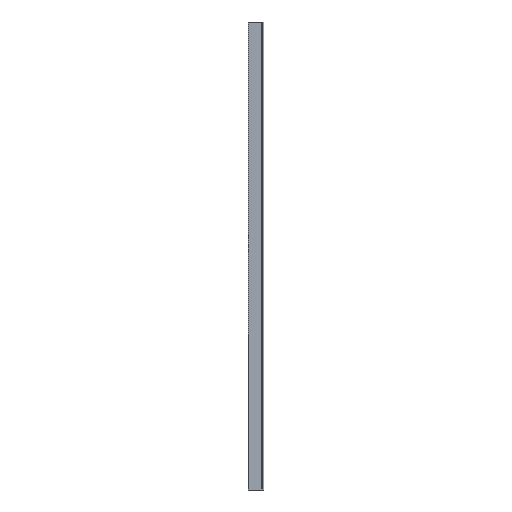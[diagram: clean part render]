
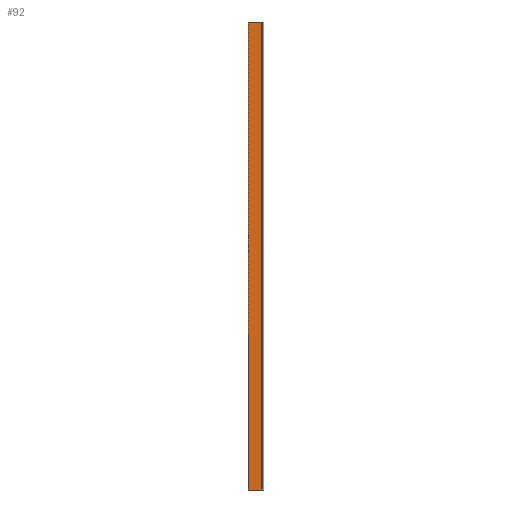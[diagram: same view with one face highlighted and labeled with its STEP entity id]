
A CAD part, left-side view. The second image highlights one B-rep face of the part: STEP entity #92.
In plain terms, the highlighted planar face has unit normal (-1, 0, 0).
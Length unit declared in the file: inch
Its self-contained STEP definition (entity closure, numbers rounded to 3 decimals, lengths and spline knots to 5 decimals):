
#4 = LINE ( 'NONE', #689, #45 ) ;
#11 = VERTEX_POINT ( 'NONE', #624 ) ;
#45 = VECTOR ( 'NONE', #84, 39.37008 ) ;
#47 = CARTESIAN_POINT ( 'NONE',  ( 0., 3.5625, 120. ) ) ;
#74 = DIRECTION ( 'NONE',  ( 0., -1., 0. ) ) ;
#84 = DIRECTION ( 'NONE',  ( 0., -1., 0. ) ) ;
#92 = ADVANCED_FACE ( 'NONE', ( #717 ), #461, .F. ) ;
#119 = DIRECTION ( 'NONE',  ( 0., 0., -1. ) ) ;
#184 = VECTOR ( 'NONE', #119, 39.37008 ) ;
#239 = CARTESIAN_POINT ( 'NONE',  ( 0., 0.03937, 120. ) ) ;
#245 = ORIENTED_EDGE ( 'NONE', *, *, #483, .T. ) ;
#247 = EDGE_LOOP ( 'NONE', ( #455, #601, #675, #245 ) ) ;
#258 = CARTESIAN_POINT ( 'NONE',  ( 0., 0.03937, 0. ) ) ;
#272 = VERTEX_POINT ( 'NONE', #710 ) ;
#300 = DIRECTION ( 'NONE',  ( 0., 0., -1. ) ) ;
#304 = CARTESIAN_POINT ( 'NONE',  ( 0., 3.5625, 0. ) ) ;
#319 = LINE ( 'NONE', #258, #420 ) ;
#329 = LINE ( 'NONE', #47, #184 ) ;
#332 = EDGE_CURVE ( 'NONE', #272, #11, #4, .T. ) ;
#343 = DIRECTION ( 'NONE',  ( 0., 0., -1. ) ) ;
#360 = VERTEX_POINT ( 'NONE', #410 ) ;
#379 = AXIS2_PLACEMENT_3D ( 'NONE', #239, #683, #343 ) ;
#398 = VERTEX_POINT ( 'NONE', #304 ) ;
#410 = CARTESIAN_POINT ( 'NONE',  ( 0., 0.03937, 0. ) ) ;
#420 = VECTOR ( 'NONE', #74, 39.37008 ) ;
#455 = ORIENTED_EDGE ( 'NONE', *, *, #635, .T. ) ;
#461 = PLANE ( 'NONE',  #379 ) ;
#475 = LINE ( 'NONE', #583, #705 ) ;
#483 = EDGE_CURVE ( 'NONE', #272, #398, #329, .T. ) ;
#540 = EDGE_CURVE ( 'NONE', #11, #360, #475, .T. ) ;
#583 = CARTESIAN_POINT ( 'NONE',  ( 0., 0.03937, 120. ) ) ;
#601 = ORIENTED_EDGE ( 'NONE', *, *, #540, .F. ) ;
#624 = CARTESIAN_POINT ( 'NONE',  ( 0., 0.03937, 120. ) ) ;
#635 = EDGE_CURVE ( 'NONE', #398, #360, #319, .T. ) ;
#675 = ORIENTED_EDGE ( 'NONE', *, *, #332, .F. ) ;
#683 = DIRECTION ( 'NONE',  ( 1., 0., 0. ) ) ;
#689 = CARTESIAN_POINT ( 'NONE',  ( 0., 0.03937, 120. ) ) ;
#705 = VECTOR ( 'NONE', #300, 39.37008 ) ;
#710 = CARTESIAN_POINT ( 'NONE',  ( 0., 3.5625, 120. ) ) ;
#717 = FACE_OUTER_BOUND ( 'NONE', #247, .T. ) ;
